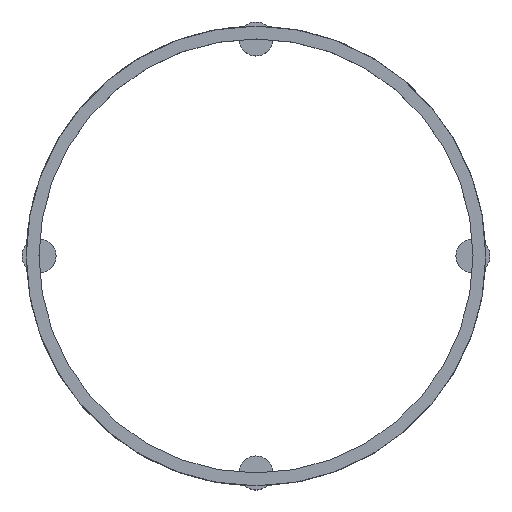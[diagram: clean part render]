
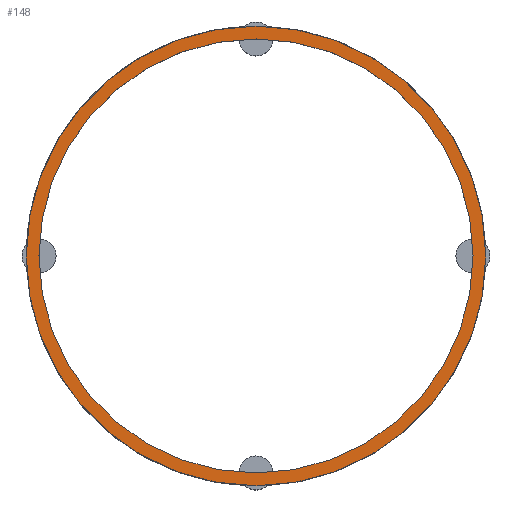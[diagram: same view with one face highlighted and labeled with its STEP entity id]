
A CAD part, top view. The second image highlights one B-rep face of the part: STEP entity #148.
In plain terms, the highlighted planar face has unit normal (0, 0, 1).
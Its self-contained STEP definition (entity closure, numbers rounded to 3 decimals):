
#103=PLANE('',#738);
#127=FACE_BOUND('',#245,.T.);
#128=FACE_BOUND('',#246,.T.);
#148=ADVANCED_FACE('',(#127,#128),#103,.T.);
#245=EDGE_LOOP('',(#375));
#246=EDGE_LOOP('',(#376));
#375=ORIENTED_EDGE('',*,*,#534,.F.);
#376=ORIENTED_EDGE('',*,*,#587,.T.);
#482=VERTEX_POINT('',#1040);
#527=VERTEX_POINT('',#1150);
#534=EDGE_CURVE('',#482,#482,#616,.T.);
#587=EDGE_CURVE('',#527,#527,#655,.T.);
#616=CIRCLE('',#686,25.5);
#655=CIRCLE('',#737,27.);
#686=AXIS2_PLACEMENT_3D('',#1039,#803,#804);
#737=AXIS2_PLACEMENT_3D('',#1149,#919,#920);
#738=AXIS2_PLACEMENT_3D('',#1151,#921,#922);
#803=DIRECTION('',(0.,0.,1.));
#804=DIRECTION('',(1.,0.,0.));
#919=DIRECTION('',(0.,0.,1.));
#920=DIRECTION('',(1.,0.,0.));
#921=DIRECTION('',(0.,0.,1.));
#922=DIRECTION('',(1.,0.,0.));
#1039=CARTESIAN_POINT('',(0.,0.,6.));
#1040=CARTESIAN_POINT('',(25.5,0.,6.));
#1149=CARTESIAN_POINT('',(0.,0.,6.));
#1150=CARTESIAN_POINT('',(27.,0.,6.));
#1151=CARTESIAN_POINT('',(0.,0.,6.));
